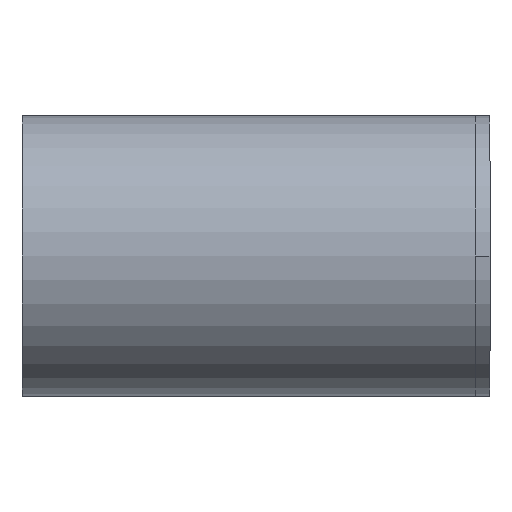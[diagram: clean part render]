
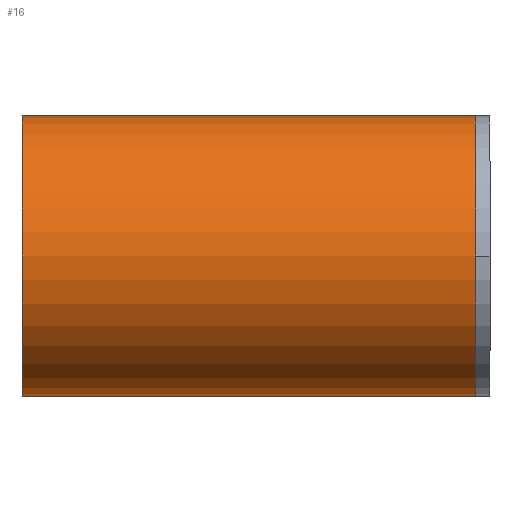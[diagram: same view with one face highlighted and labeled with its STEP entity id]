
A CAD part, left-side view. The second image highlights one B-rep face of the part: STEP entity #16.
In plain terms, the highlighted cylindrical face has radius 30 mm (diameter 60 mm), a partial arc.
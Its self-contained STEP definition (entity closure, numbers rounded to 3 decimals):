
#2 = ORIENTED_EDGE ( 'NONE', *, *, #489, .T. ) ;
#16 = ADVANCED_FACE ( 'NONE', ( #490 ), #270, .T. ) ;
#17 = CARTESIAN_POINT ( 'NONE',  ( 0., 0., 30. ) ) ;
#20 = CIRCLE ( 'NONE', #471, 30. ) ;
#52 = VERTEX_POINT ( 'NONE', #679 ) ;
#91 = VERTEX_POINT ( 'NONE', #234 ) ;
#100 = DIRECTION ( 'NONE',  ( 0., 1., 0. ) ) ;
#104 = CARTESIAN_POINT ( 'NONE',  ( 0., 0., 0. ) ) ;
#121 = LINE ( 'NONE', #687, #642 ) ;
#198 = CARTESIAN_POINT ( 'NONE',  ( 0., -97., 30. ) ) ;
#199 = EDGE_CURVE ( 'NONE', #622, #274, #121, .T. ) ;
#211 = ORIENTED_EDGE ( 'NONE', *, *, #199, .T. ) ;
#230 = DIRECTION ( 'NONE',  ( 0., 0., 1. ) ) ;
#234 = CARTESIAN_POINT ( 'NONE',  ( 0., -97., -30. ) ) ;
#270 = CYLINDRICAL_SURFACE ( 'NONE', #578, 30. ) ;
#274 = VERTEX_POINT ( 'NONE', #17 ) ;
#307 = ORIENTED_EDGE ( 'NONE', *, *, #361, .F. ) ;
#318 = EDGE_LOOP ( 'NONE', ( #307, #2, #211, #590 ) ) ;
#349 = DIRECTION ( 'NONE',  ( 0., 1., 0. ) ) ;
#361 = EDGE_CURVE ( 'NONE', #91, #52, #387, .T. ) ;
#387 = LINE ( 'NONE', #612, #701 ) ;
#392 = EDGE_CURVE ( 'NONE', #52, #274, #678, .T. ) ;
#396 = DIRECTION ( 'NONE',  ( 0., 1., 0. ) ) ;
#441 = CARTESIAN_POINT ( 'NONE',  ( 0., -97., 0. ) ) ;
#444 = DIRECTION ( 'NONE',  ( 0., 1., 0. ) ) ;
#471 = AXIS2_PLACEMENT_3D ( 'NONE', #516, #396, #230 ) ;
#489 = EDGE_CURVE ( 'NONE', #91, #622, #20, .T. ) ;
#490 = FACE_OUTER_BOUND ( 'NONE', #318, .T. ) ;
#500 = DIRECTION ( 'NONE',  ( 0., 0., 1. ) ) ;
#516 = CARTESIAN_POINT ( 'NONE',  ( 0., -97., 0. ) ) ;
#547 = AXIS2_PLACEMENT_3D ( 'NONE', #104, #558, #500 ) ;
#556 = DIRECTION ( 'NONE',  ( 0., 0., 1. ) ) ;
#558 = DIRECTION ( 'NONE',  ( 0., 1., 0. ) ) ;
#578 = AXIS2_PLACEMENT_3D ( 'NONE', #441, #444, #556 ) ;
#590 = ORIENTED_EDGE ( 'NONE', *, *, #392, .F. ) ;
#612 = CARTESIAN_POINT ( 'NONE',  ( 0., -97., -30. ) ) ;
#622 = VERTEX_POINT ( 'NONE', #198 ) ;
#642 = VECTOR ( 'NONE', #349, 1000. ) ;
#678 = CIRCLE ( 'NONE', #547, 30. ) ;
#679 = CARTESIAN_POINT ( 'NONE',  ( 0., 0., -30. ) ) ;
#687 = CARTESIAN_POINT ( 'NONE',  ( 0., -97., 30. ) ) ;
#701 = VECTOR ( 'NONE', #100, 1000. ) ;
